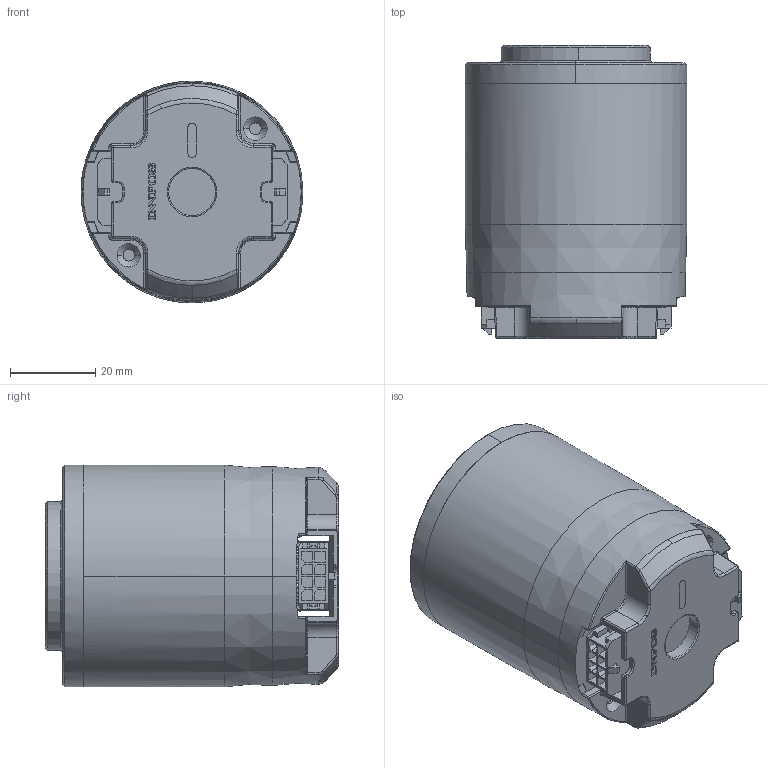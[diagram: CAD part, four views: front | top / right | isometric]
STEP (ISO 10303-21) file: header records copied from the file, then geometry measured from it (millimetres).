
FILE_DESCRIPTION (( 'STEP AP214' ), '1' );
FILE_NAME ('QDD_Lite_NE30-36_v1_8.STEP', '2019-11-22T06:48:41', ( '' ), ( '' ), 'SwSTEP 2.0', 'SolidWorks 2018', '' );
FILE_SCHEMA (( 'AUTOMOTIVE_DESIGN' ));
Length unit declared in the file: millimetre
Products named in the file (1): QDD_Lite_NE30-36_v1_8
Bounding box: 52.05 x 68.75 x 52 mm (x, y, z)
Surface area: 24189.5 mm2 (no closed solid volume)
Topology: 0 solids, 2 shells, 2146 faces, 5729 edges, 3618 vertices
Faces by surface type: plane 1313, bspline 501, cylinder 217, cone 71, torus 35, sphere 9
Entity records: 105955 total; most frequent: CARTESIAN_POINT 32516, ORIENTED_EDGE 11372, DIRECTION 8556, EDGE_CURVE 5688, VECTOR 4078, LINE 4078, VERTEX_POINT 3616, EDGE_LOOP 2316
